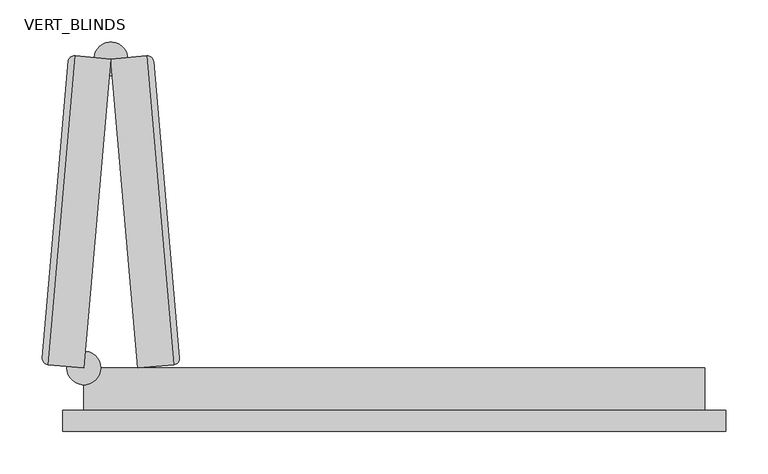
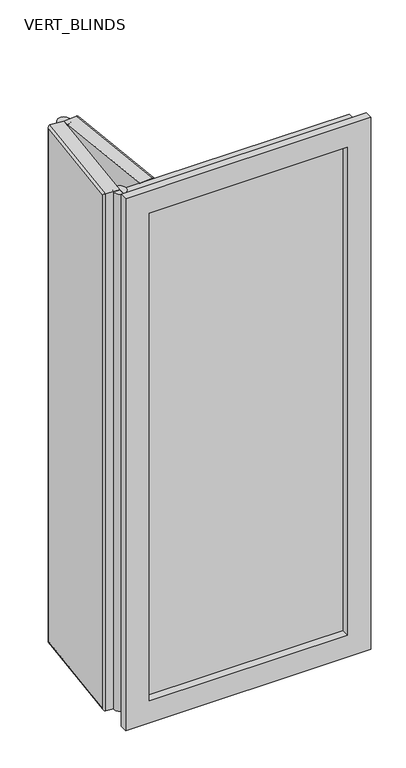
"""IFC4 building model written with IfcOpenShell, lengths in millimetres: plate geometry, CURTAIN PANEL VODA STYLE BIFOLDING : VERT_BLINDS."""

from ifc_helpers import new_model, si_unit, point, frame, frame_2d, origin, place, context, project, spatial, polyline, circle_curve, ellipse_curve, trimmed, segment, composite_curve, outline, extrude, faceted_brep, source, transform, mapped, element, save
from ifc_brep_helpers import plane_surface, cylinder_surface, advanced_brep


def vert_blinds_4d8db30e(model_context):
    return source(origin(), model_context, "Body", "SolidModel", [
        advanced_brep(
        [(-367.2136473, 50.0, 1775.0), (-335.2088691, 415.8162885, 1775.0), (-377.5471438, 419.5204075, 1775.0), (-409.5519219, 53.7041191, 1775.0), (-335.2088691, 415.8162885, 25.0), (-367.2136473, 50.0, 25.0), (-409.5519219, 53.7041191, 25.0), (-377.5471438, 419.5204075, 25.0), (-416.3697141, 61.8292474, 32.5), (-416.3697141, 61.8292474, 1767.5), (-385.6722721, 412.7026154, 1767.5), (-385.6722721, 412.7026154, 32.5)],
        [
            (0, 1),
            (1, 2),
            (2, 3),
            (3, 0),
            (4, 5),
            (5, 6),
            (6, 7),
            (7, 4),
            (1, 4),
            (7, 2),
            (8, 9),
            (9, 10),
            (10, 11),
            (11, 8),
            (5, 0),
            (3, 6),
            (8, 6, ellipse_curve(frame((-408.8982539, 61.1755793, 32.5), z_axis=(-0.061628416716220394, -0.7044160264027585, 0.7071067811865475), x_axis=(-0.061628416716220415, -0.7044160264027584, -0.7071067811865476)), 10.6066017, 7.5)),
            (3, 9, ellipse_curve(frame((-408.8982539, 61.1755793, 1767.5), z_axis=(-0.061628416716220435, -0.7044160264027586, -0.7071067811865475), x_axis=(0.061628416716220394, 0.7044160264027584, -0.7071067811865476)), 10.6066017, 7.5)),
            (11, 7, ellipse_curve(frame((-378.2008118, 412.0489473, 32.5), z_axis=(-0.061628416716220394, -0.7044160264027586, -0.7071067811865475), x_axis=(0.061628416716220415, 0.7044160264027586, -0.7071067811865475)), 10.6066017, 7.5)),
            (10, 2, ellipse_curve(frame((-378.2008118, 412.0489473, 1767.5), z_axis=(0.06162841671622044, 0.7044160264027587, -0.7071067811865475), x_axis=(0.061628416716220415, 0.7044160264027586, 0.7071067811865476)), 10.6066017, 7.5)),
        ],
        [
            plane_surface(frame((-385.018604, 420.1740756, 1775.0), z_axis=(0.0, 0.0, 1.0), x_axis=(-0.9961946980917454, 0.0871557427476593, 0.0))),
            plane_surface(frame((-385.018604, 420.1740756, 25.0), z_axis=(0.0, 0.0, -1.0), x_axis=(0.9961946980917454, -0.0871557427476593, 0.0))),
            plane_surface(frame((-335.2088691, 415.8162885, 1775.0), z_axis=(0.0871557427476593, 0.9961946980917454, 0.0), x_axis=(0.0, 0.0, -1.0))),
            plane_surface(frame((-385.018604, 420.1740756, 1775.0), z_axis=(-0.9961946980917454, 0.08715574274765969, 0.0), x_axis=(0.0, 0.0, -1.0))),
            plane_surface(frame((-417.0233822, 54.3577871, 1775.0), z_axis=(-0.08715574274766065, -0.9961946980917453, 0.0), x_axis=(0.0, 0.0, -1.0))),
            plane_surface(frame((-367.2136473, 50.0, 1775.0), z_axis=(0.9961946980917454, -0.08715574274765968, 0.0), x_axis=(0.0, 0.0, -1.0))),
            cylinder_surface(frame((-408.8982539, 61.1755793, 1775.0), z_axis=(0.0, 0.0, -1.0), x_axis=(0.9961946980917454, -0.08715574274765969, 0.0)), 7.5),
            cylinder_surface(frame((-409.5519219, 53.7041191, 32.5), z_axis=(0.08715574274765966, 0.9961946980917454, 0.0), x_axis=(0.9961946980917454, -0.08715574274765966, 0.0)), 7.5),
            cylinder_surface(frame((-378.2008118, 412.0489473, 25.0), z_axis=(0.0, 0.0, 1.0), x_axis=(0.9961946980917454, -0.08715574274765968, 0.0)), 7.5),
            cylinder_surface(frame((-377.5471438, 419.5204075, 1767.5), z_axis=(-0.08715574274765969, -0.9961946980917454, 0.0), x_axis=(0.9961946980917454, -0.08715574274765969, 0.0)), 7.5),
        ],
        [
            (0, [[1, 2, 3, 4]]),
            (1, [[5, 6, 7, 8]]),
            (2, [[9, -8, 10, -2]]),
            (3, [[11, 12, 13, 14]]),
            (4, [[15, -4, 16, -6]]),
            (5, [[-1, -15, -5, -9]]),
            (6, [[17, -16, 18, -11]]),
            (7, [[-17, -14, 19, -7]]),
            (8, [[-19, -13, 20, -10]]),
            (9, [[-18, -3, -20, -12]]),
        ],
    ),
        advanced_brep(
        [(-335.2088691, 415.8162885, 1775.0), (-303.2040909, 50.0, 1775.0), (-260.8658162, 53.7041191, 1775.0), (-292.8705944, 419.5204075, 1775.0), (-303.2040909, 50.0, 25.0), (-335.2088691, 415.8162885, 25.0), (-292.8705944, 419.5204075, 25.0), (-260.8658162, 53.7041191, 25.0), (-284.7454661, 412.7026154, 32.5), (-284.7454661, 412.7026154, 1767.5), (-254.0480241, 61.8292474, 1767.5), (-254.0480241, 61.8292474, 32.5)],
        [
            (0, 1),
            (1, 2),
            (2, 3),
            (3, 0),
            (4, 5),
            (5, 6),
            (6, 7),
            (7, 4),
            (1, 4),
            (7, 2),
            (8, 9),
            (9, 10),
            (10, 11),
            (11, 8),
            (5, 0),
            (3, 6),
            (8, 6, ellipse_curve(frame((-292.2169263, 412.0489473, 32.5), z_axis=(-0.06162841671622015, 0.7044160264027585, 0.7071067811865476), x_axis=(-0.06162841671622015, 0.7044160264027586, -0.7071067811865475)), 10.6066017, 7.5)),
            (3, 9, ellipse_curve(frame((-292.2169263, 412.0489473, 1767.5), z_axis=(-0.061628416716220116, 0.7044160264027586, -0.7071067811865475), x_axis=(0.06162841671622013, -0.7044160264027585, -0.7071067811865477)), 10.6066017, 7.5)),
            (11, 7, ellipse_curve(frame((-261.5194843, 61.1755793, 32.5), z_axis=(-0.06162841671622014, 0.7044160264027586, -0.7071067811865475), x_axis=(0.06162841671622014, -0.7044160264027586, -0.7071067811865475)), 10.6066017, 7.5)),
            (10, 2, ellipse_curve(frame((-261.5194843, 61.1755793, 1767.5), z_axis=(0.06162841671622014, -0.7044160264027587, -0.7071067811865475), x_axis=(0.06162841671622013, -0.7044160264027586, 0.7071067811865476)), 10.6066017, 7.5)),
        ],
        [
            plane_surface(frame((-253.394356, 54.3577871, 1775.0), z_axis=(0.0, 0.0, 1.0), x_axis=(0.9961946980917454, 0.08715574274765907, 0.0))),
            plane_surface(frame((-253.394356, 54.3577871, 25.0), z_axis=(0.0, 0.0, -1.0), x_axis=(-0.9961946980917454, -0.08715574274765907, 0.0))),
            plane_surface(frame((-303.2040909, 50.0, 1775.0), z_axis=(0.08715574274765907, -0.9961946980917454, 0.0), x_axis=(0.0, 0.0, -1.0))),
            plane_surface(frame((-253.394356, 54.3577871, 1775.0), z_axis=(0.9961946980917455, 0.08715574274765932, 0.0), x_axis=(0.0, 0.0, -1.0))),
            plane_surface(frame((-285.3991342, 420.1740756, 1775.0), z_axis=(-0.08715574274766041, 0.9961946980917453, 0.0), x_axis=(0.0, 0.0, -1.0))),
            plane_surface(frame((-335.2088691, 415.8162885, 1775.0), z_axis=(-0.9961946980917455, -0.08715574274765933, 0.0), x_axis=(0.0, 0.0, -1.0))),
            cylinder_surface(frame((-292.2169263, 412.0489473, 1775.0), z_axis=(0.0, 0.0, -1.0000000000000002), x_axis=(-0.9961946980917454, -0.08715574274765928, 0.0)), 7.5),
            cylinder_surface(frame((-292.8705944, 419.5204075, 32.5), z_axis=(0.08715574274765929, -0.9961946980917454, 0.0), x_axis=(-0.9961946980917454, -0.08715574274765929, 0.0)), 7.5),
            cylinder_surface(frame((-261.5194843, 61.1755793, 25.0), z_axis=(0.0, 0.0, 1.0000000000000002), x_axis=(-0.9961946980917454, -0.08715574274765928, 0.0)), 7.5),
            cylinder_surface(frame((-260.8658162, 53.7041191, 1767.5), z_axis=(-0.08715574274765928, 0.9961946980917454, 0.0), x_axis=(-0.9961946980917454, -0.08715574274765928, 0.0)), 7.5),
        ],
        [
            (0, [[1, 2, 3, 4]]),
            (1, [[5, 6, 7, 8]]),
            (2, [[9, -8, 10, -2]]),
            (3, [[11, 12, 13, 14]]),
            (4, [[15, -4, 16, -6]]),
            (5, [[-1, -15, -5, -9]]),
            (6, [[17, -16, 18, -11]]),
            (7, [[-17, -14, 19, -7]]),
            (8, [[-19, -13, 20, -10]]),
            (9, [[-18, -3, -20, -12]]),
        ],
    ),
        extrude(outline(composite_curve([segment(trimmed(circle_curve(frame_2d((-367.2136473, 50.0)), 20.0), [point((-387.2136473, 50.0))], [point((-347.2136473, 50.0))], False, "CARTESIAN"), True, "CONTINUOUS"), segment(trimmed(circle_curve(frame_2d((-367.2136473, 50.0)), 20.0), [point((-347.2136473, 50.0))], [point((-387.2136473, 50.0))], False, "CARTESIAN"), True, "CONTINUOUS")], self_intersect=False)), frame((0.0, 0.0, 25.0), z_axis=(0.0, 0.0, 1.0), x_axis=(1.0, 0.0, 0.0)), (0.0, 0.0, 1.0), 1750.0),
        extrude(outline(composite_curve([segment(trimmed(circle_curve(frame_2d((-335.2088691, 415.8162885)), 20.0), [point((-336.9519839, 395.8923945))], [point((-333.4657542, 435.7401824))], False, "CARTESIAN"), True, "CONTINUOUS"), segment(trimmed(circle_curve(frame_2d((-335.2088691, 415.8162885)), 20.0), [point((-333.4657542, 435.7401824))], [point((-336.9519839, 395.8923945))], False, "CARTESIAN"), True, "CONTINUOUS")], self_intersect=False)), frame((0.0, 0.0, 25.0), z_axis=(0.0, 0.0, 1.0), x_axis=(1.0, 0.0, 0.0)), (0.0, 0.0, 1.0), 1750.0),
        extrude(outline(polyline([(-317.2136473, 24.0), (317.2136473, 24.0), (317.2136473, 0.0), (-317.2136473, 0.0), (-317.2136473, 24.0)])), frame((0.0, 0.0, 75.0), z_axis=(0.0, 0.0, 1.0), x_axis=(1.0, 0.0, 0.0)), (0.0, 0.0, 1.0), 1650.0),
        faceted_brep([(-317.2136473, 50.0, 1725.0), (-317.2136473, -25.0, 1725.0), (-317.2136473, -25.0, 75.0), (-317.2136473, 50.0, 75.0), (-392.2136473, -25.0, 1800.0), (-392.2136473, 0.0, 1800.0), (-392.2136473, 0.0, 0.0), (-392.2136473, -25.0, 0.0), (-367.2136473, 0.0, 1775.0), (-367.2136473, 50.0, 1775.0), (-367.2136473, 50.0, 25.0), (-367.2136473, 0.0, 25.0), (317.2136473, -25.0, 75.0), (317.2136473, 50.0, 75.0), (392.2136473, 0.0, 0.0), (392.2136473, -25.0, 0.0), (367.2136473, 50.0, 25.0), (367.2136473, 0.0, 25.0), (317.2136473, -25.0, 1725.0), (317.2136473, 50.0, 1725.0), (392.2136473, 0.0, 1800.0), (392.2136473, -25.0, 1800.0), (367.2136473, 50.0, 1775.0), (367.2136473, 0.0, 1775.0)], [[[0, 1, 2, 3]], [[4, 5, 6, 7]], [[8, 9, 10, 11]], [[3, 2, 12, 13]], [[7, 6, 14, 15]], [[11, 10, 16, 17]], [[13, 12, 18, 19]], [[15, 14, 20, 21]], [[17, 16, 22, 23]], [[9, 22, 16, 10], [3, 13, 19, 0]], [[19, 18, 1, 0]], [[7, 15, 21, 4], [1, 18, 12, 2]], [[21, 20, 5, 4]], [[5, 20, 14, 6], [11, 17, 23, 8]], [[23, 22, 9, 8]]]),
    ])


if __name__ == "__main__":
    model = new_model("IFC4")
    model_context = context("Model", 3, world=origin())
    ifc_project = project(units=[si_unit("LENGTHUNIT", "METRE", prefix="MILLI")], contexts=[model_context])
    site = spatial("IfcSite", under=ifc_project)
    building = spatial("IfcBuilding", under=site)
    placement = place(None, origin())
    vert_blinds_shape = vert_blinds_4d8db30e(model_context)
    element("IfcPlate", 1, ObjectType="CURTAIN PANEL VODA STYLE BIFOLDING : VERT_BLINDS", at=placement, inside=building, context=model_context, shape_type="MappedRepresentation", body=[
        mapped(vert_blinds_shape, transform((0.0, 0.0, 0.0), x_axis=(1.0, 0.0, 0.0), y_axis=(0.0, 1.0, 0.0), z_axis=(0.0, 0.0, 1.0))),
    ])
    save(model, "model.ifc")
